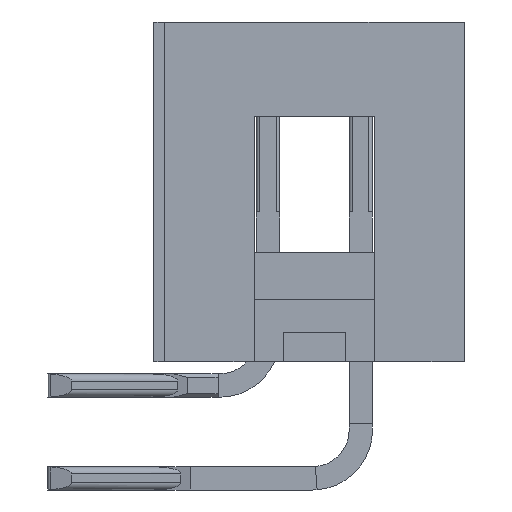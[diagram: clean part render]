
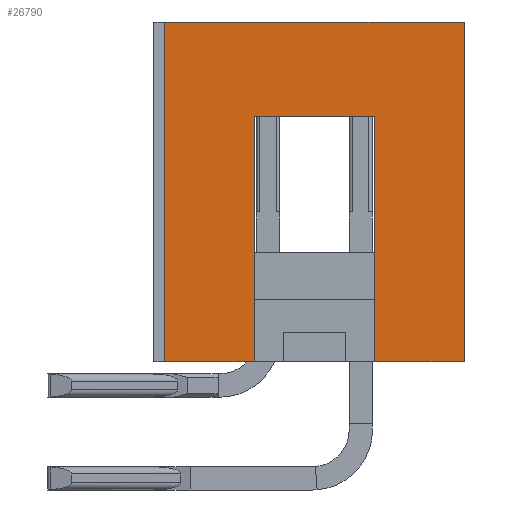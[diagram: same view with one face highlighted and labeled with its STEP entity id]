
A CAD part, left-side view. The second image highlights one B-rep face of the part: STEP entity #26790.
In plain terms, the highlighted planar face has unit normal (-1, 0, 0).
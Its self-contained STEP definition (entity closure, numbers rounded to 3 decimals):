
#434 = DIRECTION ( 'NONE',  ( -1., 0., 0. ) ) ;
#585 = LINE ( 'NONE', #36230, #15238 ) ;
#786 = DIRECTION ( 'NONE',  ( 0., -1., 0. ) ) ;
#3551 = CARTESIAN_POINT ( 'NONE',  ( -29.035, 1.65, -4.65 ) ) ;
#3909 = ORIENTED_EDGE ( 'NONE', *, *, #54062, .T. ) ;
#4329 = EDGE_CURVE ( 'NONE', #51193, #28168, #4962, .T. ) ;
#4962 = LINE ( 'NONE', #22147, #45624 ) ;
#5159 = VECTOR ( 'NONE', #12806, 1000. ) ;
#5247 = VECTOR ( 'NONE', #59971, 1000. ) ;
#5741 = LINE ( 'NONE', #15225, #37906 ) ;
#5843 = PLANE ( 'NONE',  #26311 ) ;
#6407 = VECTOR ( 'NONE', #19316, 1000. ) ;
#8150 = EDGE_LOOP ( 'NONE', ( #9449, #16197, #15142, #3909, #53168, #32147, #36824, #36016 ) ) ;
#9120 = EDGE_CURVE ( 'NONE', #28168, #62030, #51179, .T. ) ;
#9449 = ORIENTED_EDGE ( 'NONE', *, *, #9120, .F. ) ;
#10917 = CARTESIAN_POINT ( 'NONE',  ( -29.035, -1.65, -4.65 ) ) ;
#11315 = VERTEX_POINT ( 'NONE', #29118 ) ;
#12806 = DIRECTION ( 'NONE',  ( 0., 0., -1. ) ) ;
#13227 = CARTESIAN_POINT ( 'NONE',  ( -29.035, 1.65, 2.05 ) ) ;
#13587 = LINE ( 'NONE', #10917, #16672 ) ;
#15142 = ORIENTED_EDGE ( 'NONE', *, *, #35678, .F. ) ;
#15225 = CARTESIAN_POINT ( 'NONE',  ( -29.035, 4.1, -4.65 ) ) ;
#15238 = VECTOR ( 'NONE', #51080, 1000. ) ;
#15602 = CARTESIAN_POINT ( 'NONE',  ( -29.035, -4.1, -4.65 ) ) ;
#15795 = VERTEX_POINT ( 'NONE', #15602 ) ;
#16197 = ORIENTED_EDGE ( 'NONE', *, *, #4329, .F. ) ;
#16636 = DIRECTION ( 'NONE',  ( 0., 1., 0. ) ) ;
#16672 = VECTOR ( 'NONE', #55022, 1000. ) ;
#17843 = EDGE_CURVE ( 'NONE', #27861, #62030, #5741, .T. ) ;
#19115 = CARTESIAN_POINT ( 'NONE',  ( -29.035, 1.65, -4.65 ) ) ;
#19316 = DIRECTION ( 'NONE',  ( 0., 0., 1. ) ) ;
#20453 = CARTESIAN_POINT ( 'NONE',  ( -29.035, -4.1, -4.65 ) ) ;
#21438 = EDGE_CURVE ( 'NONE', #47016, #11315, #585, .T. ) ;
#22147 = CARTESIAN_POINT ( 'NONE',  ( -29.035, 1.65, 2.05 ) ) ;
#23942 = EDGE_CURVE ( 'NONE', #27861, #47016, #24001, .T. ) ;
#24001 = LINE ( 'NONE', #34038, #6407 ) ;
#26311 = AXIS2_PLACEMENT_3D ( 'NONE', #49999, #434, #30015 ) ;
#26608 = VECTOR ( 'NONE', #54710, 1000. ) ;
#26790 = ADVANCED_FACE ( 'NONE', ( #55929 ), #5843, .T. ) ;
#27861 = VERTEX_POINT ( 'NONE', #50294 ) ;
#28168 = VERTEX_POINT ( 'NONE', #13227 ) ;
#29118 = CARTESIAN_POINT ( 'NONE',  ( -29.035, -4.1, 4.65 ) ) ;
#29206 = CARTESIAN_POINT ( 'NONE',  ( -29.035, -1.65, -4.65 ) ) ;
#30015 = DIRECTION ( 'NONE',  ( 0., 0., 1. ) ) ;
#32147 = ORIENTED_EDGE ( 'NONE', *, *, #21438, .F. ) ;
#34038 = CARTESIAN_POINT ( 'NONE',  ( -29.035, 4.1, -4.65 ) ) ;
#35002 = CARTESIAN_POINT ( 'NONE',  ( -29.035, 4.1, -4.65 ) ) ;
#35678 = EDGE_CURVE ( 'NONE', #61642, #51193, #13587, .T. ) ;
#36016 = ORIENTED_EDGE ( 'NONE', *, *, #17843, .T. ) ;
#36230 = CARTESIAN_POINT ( 'NONE',  ( -29.035, 4.1, 4.65 ) ) ;
#36824 = ORIENTED_EDGE ( 'NONE', *, *, #23942, .F. ) ;
#37906 = VECTOR ( 'NONE', #786, 1000. ) ;
#45624 = VECTOR ( 'NONE', #16636, 1000. ) ;
#47016 = VERTEX_POINT ( 'NONE', #55432 ) ;
#49999 = CARTESIAN_POINT ( 'NONE',  ( -29.035, 4.1, -4.65 ) ) ;
#50294 = CARTESIAN_POINT ( 'NONE',  ( -29.035, 4.1, -4.65 ) ) ;
#51080 = DIRECTION ( 'NONE',  ( 0., -1., 0. ) ) ;
#51179 = LINE ( 'NONE', #3551, #5159 ) ;
#51193 = VERTEX_POINT ( 'NONE', #54615 ) ;
#53168 = ORIENTED_EDGE ( 'NONE', *, *, #59993, .T. ) ;
#54062 = EDGE_CURVE ( 'NONE', #61642, #15795, #57454, .T. ) ;
#54615 = CARTESIAN_POINT ( 'NONE',  ( -29.035, -1.65, 2.05 ) ) ;
#54710 = DIRECTION ( 'NONE',  ( 0., 0., 1. ) ) ;
#55001 = LINE ( 'NONE', #20453, #26608 ) ;
#55022 = DIRECTION ( 'NONE',  ( 0., 0., 1. ) ) ;
#55432 = CARTESIAN_POINT ( 'NONE',  ( -29.035, 4.1, 4.65 ) ) ;
#55929 = FACE_OUTER_BOUND ( 'NONE', #8150, .T. ) ;
#57454 = LINE ( 'NONE', #35002, #5247 ) ;
#59971 = DIRECTION ( 'NONE',  ( 0., -1., 0. ) ) ;
#59993 = EDGE_CURVE ( 'NONE', #15795, #11315, #55001, .T. ) ;
#61642 = VERTEX_POINT ( 'NONE', #29206 ) ;
#62030 = VERTEX_POINT ( 'NONE', #19115 ) ;
